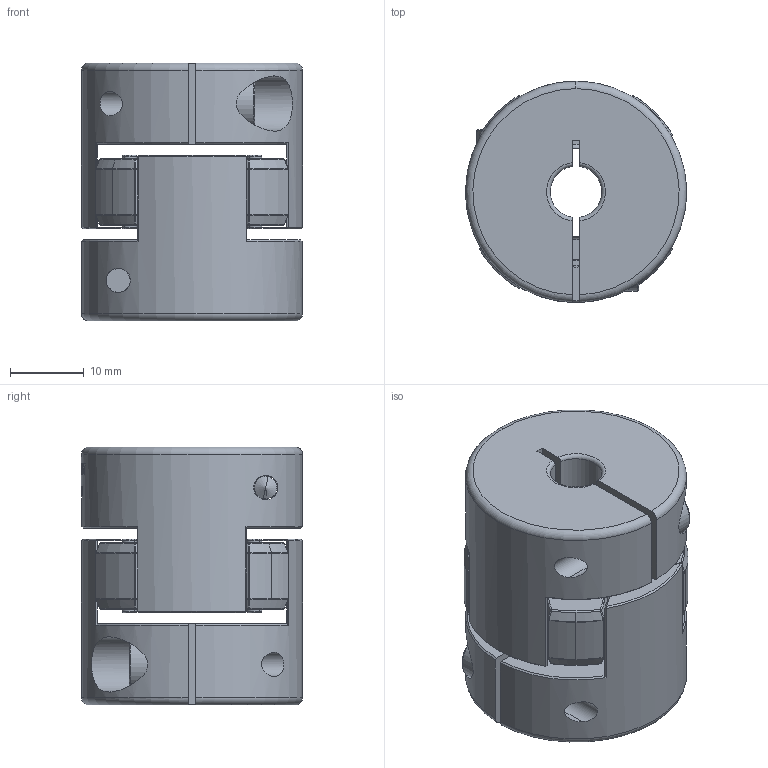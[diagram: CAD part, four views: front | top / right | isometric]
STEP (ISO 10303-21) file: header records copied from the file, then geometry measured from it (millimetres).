
FILE_DESCRIPTION (( 'STEP AP203' ), '1' );
FILE_NAME ('FACE30-B.R.W.STEP', '2008-04-04T06:34:46', ( '陳志豪' ), ( '高明鐵企業股份有限公司' ), 'SwSTEP 2.0', 'SolidWorks 2007', '' );
FILE_SCHEMA (( 'CONFIG_CONTROL_DESIGN' ));
Length unit declared in the file: millimetre
Products named in the file (1): FACE30-B.R.W
Bounding box: 30 x 30 x 35 mm (x, y, z)
Surface area: 7901.2 mm2 (no closed solid volume)
Topology: 0 solids, 8 shells, 310 faces, 1093 edges, 750 vertices
Faces by surface type: torus 73, plane 70, cylinder 62, cone 52, bspline 37, sphere 16
Entity records: 14340 total; most frequent: CARTESIAN_POINT 5697, DIRECTION 1731, ORIENTED_EDGE 1653, EDGE_CURVE 1089, AXIS2_PLACEMENT_3D 752, VERTEX_POINT 750, CIRCLE 478, B_SPLINE_CURVE_WITH_KNOTS 368
